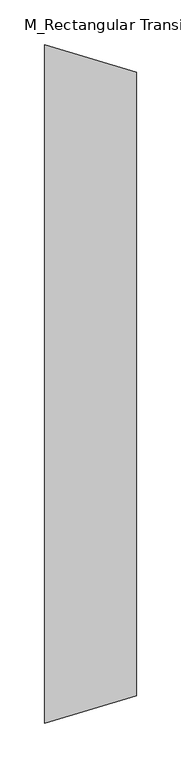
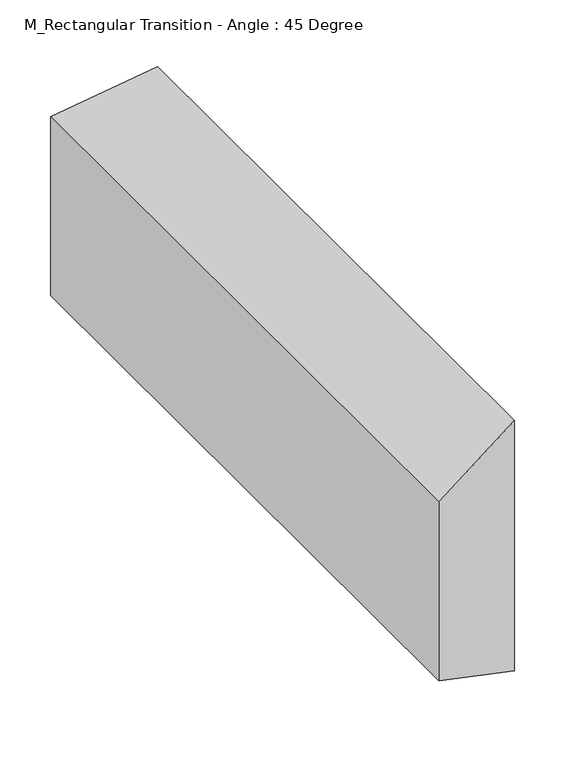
"""IFC4 building model written with IfcOpenShell, lengths in millimetres: duct fitting geometry, M_Rectangular Transition - Angle : 45 Degree."""

from ifc_helpers import new_model, si_unit, origin, place, context, project, spatial, faceted_brep, source, transform, mapped, element, save


def m_rectangular_transition_angle_45_degree_dd3c9227(model_context):
    return source(origin(), model_context, "Body", "Brep", [
        faceted_brep([(103.4792288, -350.0, 150.0), (103.4792288, -350.0, -150.0), (103.4792288, 350.0, -150.0), (103.4792288, 350.0, 150.0), (0.0, -380.9375, 107.1375), (0.0, 380.9375, 107.1375), (0.0, 380.9375, -107.1375), (0.0, -380.9375, -107.1375)], [[[0, 1, 2, 3]], [[4, 5, 6, 7]], [[4, 7, 1, 0]], [[7, 6, 2, 1]], [[6, 5, 3, 2]], [[5, 4, 0, 3]]]),
    ])


if __name__ == "__main__":
    model = new_model("IFC4")
    model_context = context("Model", 3, world=origin())
    ifc_project = project(units=[si_unit("LENGTHUNIT", "METRE", prefix="MILLI")], contexts=[model_context])
    site = spatial("IfcSite", under=ifc_project)
    building = spatial("IfcBuilding", under=site)
    placement = place(None, origin())
    m_rectangular_transition_angle_45_degree_shape = m_rectangular_transition_angle_45_degree_dd3c9227(model_context)
    element("IfcDuctFitting", 1, ObjectType="M_Rectangular Transition - Angle : 45 Degree", at=placement, inside=building, context=model_context, shape_type="MappedRepresentation", body=[
        mapped(m_rectangular_transition_angle_45_degree_shape, transform((0.0, 0.0, 0.0), x_axis=(1.0, 0.0, 0.0), y_axis=(0.0, 1.0, 0.0), z_axis=(0.0, 0.0, 1.0))),
    ])
    save(model, "model.ifc")
